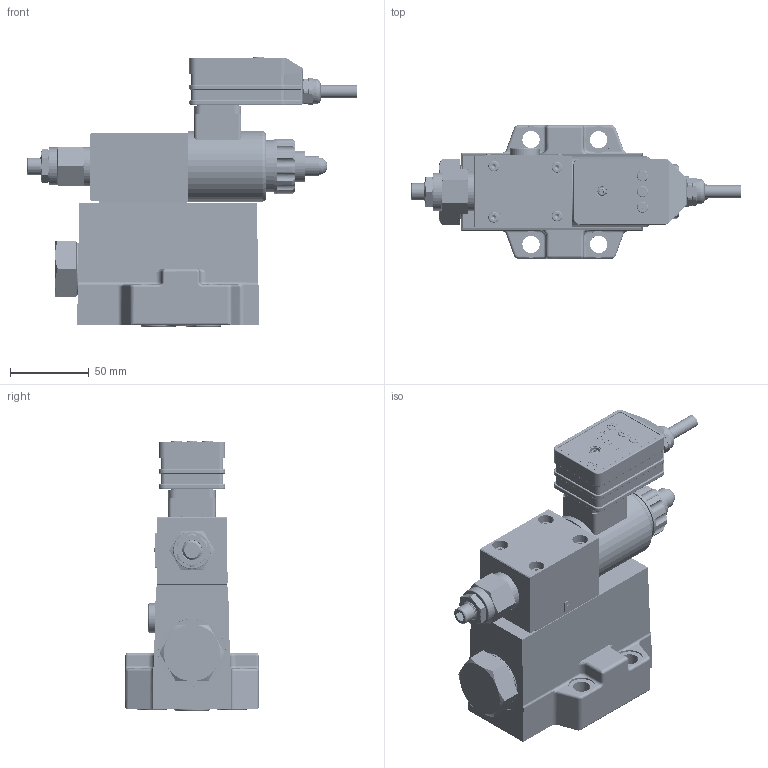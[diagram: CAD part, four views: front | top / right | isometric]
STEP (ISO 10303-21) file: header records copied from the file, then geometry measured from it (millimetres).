
FILE_DESCRIPTION(/* description */ (''),/* implementation_level */ '2;1');
FILE_NAME(/* name */ 'DREME10-6XJ.stp',/* time_stamp */ '2023-11-20T14:25:27+08:00',/* author */ (''),/* organization */ (''),/* preprocessor_version */ 'ST-DEVELOPER v16.7',/* originating_system */ 'SIEMENS PLM Software NX 12.0',/* authorisation */ '');
FILE_SCHEMA (('AUTOMOTIVE_DESIGN { 1 0 10303 214 3 1 1 1 }'));
Products named in the file (1): DREME10
Bounding box: 210.09 x 85 x 172.42 mm (x, y, z)
Volume: 702252.2 mm3; surface area: 195531 mm2
Topology: 53 solids, 62 shells, 3434 faces, 8921 edges, 5759 vertices
Faces by surface type: cylinder 1458, plane 1346, cone 233, torus 145, bspline 140, extrusion 99, sphere 13
Full cylindrical faces by diameter (mm): 1 x2, 1.5 x2, 1.6 x1, 1.9 x2, 2 x2, 2.5 x2, 3.3 x10, 4 x136, 4.8 x1, 5 x1, 6.7 x1, 6.78 x4, 7 x1, 7.49 x1, 7.5 x1, 7.54 x1, 10 x1, 11 x4, 11.093 x1, 11.1 x1, 13 x1, 14.8 x2, 16 x1, 16.2 x2, 16.6 x1, 18.9 x1, 19.8 x1, 20 x1, 20.5 x1, 23 x2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
Entity records: 213957 total; most frequent: CARTESIAN_POINT 132396, ORIENTED_EDGE 16576, DIRECTION 14383, EDGE_CURVE 8288, VERTEX_POINT 5432, AXIS2_PLACEMENT_3D 5096, VECTOR 4191, LINE 4092
